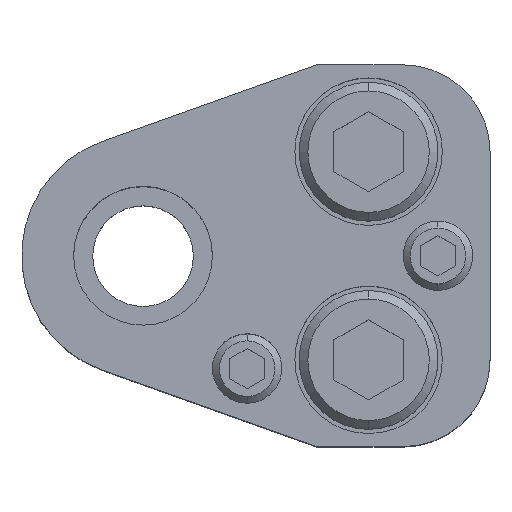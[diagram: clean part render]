
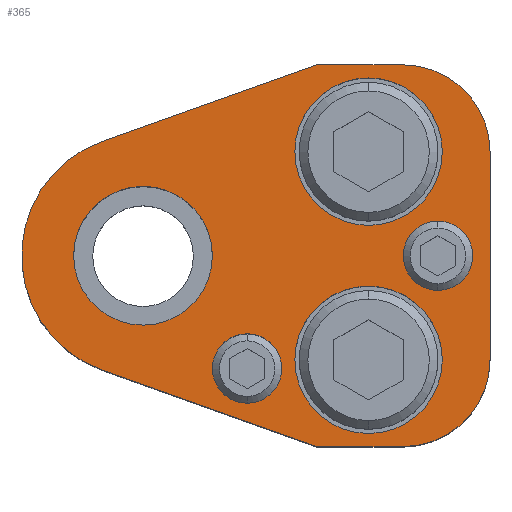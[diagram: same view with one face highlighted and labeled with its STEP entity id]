
A CAD part, top view. The second image highlights one B-rep face of the part: STEP entity #365.
In plain terms, the highlighted planar face has unit normal (0, 0, 1).
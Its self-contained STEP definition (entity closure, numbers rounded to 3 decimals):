
#134=PLANE('',#2757);
#204=FACE_BOUND('',#701,.T.);
#205=FACE_BOUND('',#702,.T.);
#206=FACE_BOUND('',#703,.T.);
#207=FACE_BOUND('',#704,.T.);
#208=FACE_BOUND('',#705,.T.);
#209=FACE_BOUND('',#706,.T.);
#365=ADVANCED_FACE('',(#204,#205,#206,#207,#208,#209),#134,.T.);
#701=EDGE_LOOP('',(#1265,#1266,#1267,#1268,#1269,#1270,#1271,#1272));
#702=EDGE_LOOP('',(#1273,#1274));
#703=EDGE_LOOP('',(#1275,#1276));
#704=EDGE_LOOP('',(#1277,#1278));
#705=EDGE_LOOP('',(#1279,#1280));
#706=EDGE_LOOP('',(#1281,#1282));
#859=CIRCLE('',#2700,14.);
#861=CIRCLE('',#2705,10.);
#863=CIRCLE('',#2709,10.);
#881=CIRCLE('',#2737,8.5);
#883=CIRCLE('',#2740,8.5);
#885=CIRCLE('',#2744,8.5);
#887=CIRCLE('',#2747,8.5);
#889=CIRCLE('',#2751,4.);
#890=CIRCLE('',#2752,4.);
#891=CIRCLE('',#2753,4.);
#892=CIRCLE('',#2754,4.);
#893=CIRCLE('',#2755,8.);
#894=CIRCLE('',#2756,8.);
#1265=ORIENTED_EDGE('',*,*,#1976,.T.);
#1266=ORIENTED_EDGE('',*,*,#1980,.T.);
#1267=ORIENTED_EDGE('',*,*,#1983,.T.);
#1268=ORIENTED_EDGE('',*,*,#1986,.T.);
#1269=ORIENTED_EDGE('',*,*,#1989,.T.);
#1270=ORIENTED_EDGE('',*,*,#1992,.T.);
#1271=ORIENTED_EDGE('',*,*,#1995,.T.);
#1272=ORIENTED_EDGE('',*,*,#1998,.T.);
#1273=ORIENTED_EDGE('',*,*,#2033,.F.);
#1274=ORIENTED_EDGE('',*,*,#2034,.F.);
#1275=ORIENTED_EDGE('',*,*,#2035,.F.);
#1276=ORIENTED_EDGE('',*,*,#2036,.F.);
#1277=ORIENTED_EDGE('',*,*,#2031,.F.);
#1278=ORIENTED_EDGE('',*,*,#2027,.F.);
#1279=ORIENTED_EDGE('',*,*,#2025,.F.);
#1280=ORIENTED_EDGE('',*,*,#2021,.F.);
#1281=ORIENTED_EDGE('',*,*,#2037,.T.);
#1282=ORIENTED_EDGE('',*,*,#2038,.T.);
#1716=VERTEX_POINT('',#3980);
#1717=VERTEX_POINT('',#3982);
#1720=VERTEX_POINT('',#3989);
#1722=VERTEX_POINT('',#3995);
#1724=VERTEX_POINT('',#4001);
#1726=VERTEX_POINT('',#4007);
#1728=VERTEX_POINT('',#4013);
#1730=VERTEX_POINT('',#4019);
#1747=VERTEX_POINT('',#4072);
#1748=VERTEX_POINT('',#4073);
#1751=VERTEX_POINT('',#4085);
#1752=VERTEX_POINT('',#4086);
#1755=VERTEX_POINT('',#4098);
#1756=VERTEX_POINT('',#4099);
#1757=VERTEX_POINT('',#4102);
#1758=VERTEX_POINT('',#4103);
#1759=VERTEX_POINT('',#4106);
#1760=VERTEX_POINT('',#4107);
#1976=EDGE_CURVE('',#1717,#1716,#859,.T.);
#1980=EDGE_CURVE('',#1716,#1720,#2266,.T.);
#1983=EDGE_CURVE('',#1720,#1722,#2269,.T.);
#1986=EDGE_CURVE('',#1722,#1724,#861,.T.);
#1989=EDGE_CURVE('',#1724,#1726,#2273,.T.);
#1992=EDGE_CURVE('',#1726,#1728,#863,.T.);
#1995=EDGE_CURVE('',#1728,#1730,#2277,.T.);
#1998=EDGE_CURVE('',#1730,#1717,#2280,.T.);
#2021=EDGE_CURVE('',#1747,#1748,#881,.T.);
#2025=EDGE_CURVE('',#1748,#1747,#883,.T.);
#2027=EDGE_CURVE('',#1751,#1752,#885,.T.);
#2031=EDGE_CURVE('',#1752,#1751,#887,.T.);
#2033=EDGE_CURVE('',#1755,#1756,#889,.T.);
#2034=EDGE_CURVE('',#1756,#1755,#890,.T.);
#2035=EDGE_CURVE('',#1757,#1758,#891,.T.);
#2036=EDGE_CURVE('',#1758,#1757,#892,.T.);
#2037=EDGE_CURVE('',#1759,#1760,#893,.T.);
#2038=EDGE_CURVE('',#1760,#1759,#894,.T.);
#2266=LINE('',#3990,#2458);
#2269=LINE('',#3996,#2461);
#2273=LINE('',#4008,#2465);
#2277=LINE('',#4020,#2469);
#2280=LINE('',#4024,#2472);
#2458=VECTOR('',#3164,1.);
#2461=VECTOR('',#3169,1.);
#2465=VECTOR('',#3181,1.);
#2469=VECTOR('',#3193,1.);
#2472=VECTOR('',#3198,1.);
#2700=AXIS2_PLACEMENT_3D('',#3981,#3156,#3157);
#2705=AXIS2_PLACEMENT_3D('',#4002,#3174,#3175);
#2709=AXIS2_PLACEMENT_3D('',#4014,#3186,#3187);
#2737=AXIS2_PLACEMENT_3D('',#4071,#3253,#3254);
#2740=AXIS2_PLACEMENT_3D('',#4080,#3261,#3262);
#2744=AXIS2_PLACEMENT_3D('',#4084,#3269,#3270);
#2747=AXIS2_PLACEMENT_3D('',#4093,#3277,#3278);
#2751=AXIS2_PLACEMENT_3D('',#4097,#3285,#3286);
#2752=AXIS2_PLACEMENT_3D('',#4100,#3287,#3288);
#2753=AXIS2_PLACEMENT_3D('',#4101,#3289,#3290);
#2754=AXIS2_PLACEMENT_3D('',#4104,#3291,#3292);
#2755=AXIS2_PLACEMENT_3D('',#4105,#3293,#3294);
#2756=AXIS2_PLACEMENT_3D('',#4108,#3295,#3296);
#2757=AXIS2_PLACEMENT_3D('',#4109,#3297,#3298);
#3156=DIRECTION('',(0.,0.,1.));
#3157=DIRECTION('',(-0.106,0.994,0.));
#3164=DIRECTION('',(0.942,-0.336,0.));
#3169=DIRECTION('',(1.,0.,0.));
#3174=DIRECTION('',(0.,0.,1.));
#3175=DIRECTION('',(-0.707,0.707,0.));
#3181=DIRECTION('',(0.,1.,0.));
#3186=DIRECTION('',(0.,0.,1.));
#3187=DIRECTION('',(-0.707,-0.707,0.));
#3193=DIRECTION('',(-1.,0.,0.));
#3198=DIRECTION('',(-0.942,-0.336,0.));
#3253=DIRECTION('',(0.,0.,1.));
#3254=DIRECTION('',(-1.,0.,0.));
#3261=DIRECTION('',(0.,0.,1.));
#3262=DIRECTION('',(1.,0.,0.));
#3269=DIRECTION('',(0.,0.,1.));
#3270=DIRECTION('',(-1.,0.,0.));
#3277=DIRECTION('',(0.,0.,1.));
#3278=DIRECTION('',(1.,0.,0.));
#3285=DIRECTION('',(0.,0.,1.));
#3286=DIRECTION('',(1.,0.,0.));
#3287=DIRECTION('',(0.,0.,1.));
#3288=DIRECTION('',(-1.,0.,0.));
#3289=DIRECTION('',(0.,0.,1.));
#3290=DIRECTION('',(1.,0.,0.));
#3291=DIRECTION('',(0.,0.,1.));
#3292=DIRECTION('',(-1.,0.,0.));
#3293=DIRECTION('',(0.,0.,-1.));
#3294=DIRECTION('',(-1.,0.,0.));
#3295=DIRECTION('',(0.,0.,-1.));
#3296=DIRECTION('',(1.,0.,0.));
#3297=DIRECTION('',(0.,0.,1.));
#3298=DIRECTION('',(0.942,0.336,0.));
#3980=CARTESIAN_POINT('',(-4.704,-13.186,35.));
#3981=CARTESIAN_POINT('',(0.,0.,35.));
#3982=CARTESIAN_POINT('',(-4.704,13.186,35.));
#3989=CARTESIAN_POINT('',(20.,-22.,35.));
#3990=CARTESIAN_POINT('',(20.,-22.,35.));
#3995=CARTESIAN_POINT('',(30.,-22.,35.));
#3996=CARTESIAN_POINT('',(30.,-22.,35.));
#4001=CARTESIAN_POINT('',(40.,-12.,35.));
#4002=CARTESIAN_POINT('',(30.,-12.,35.));
#4007=CARTESIAN_POINT('',(40.,12.,35.));
#4008=CARTESIAN_POINT('',(40.,12.,35.));
#4013=CARTESIAN_POINT('',(30.,22.,35.));
#4014=CARTESIAN_POINT('',(30.,12.,35.));
#4019=CARTESIAN_POINT('',(20.,22.,35.));
#4020=CARTESIAN_POINT('',(30.,22.,35.));
#4024=CARTESIAN_POINT('',(20.,22.,35.));
#4071=CARTESIAN_POINT('',(26.,12.,35.));
#4072=CARTESIAN_POINT('',(26.,3.5,35.));
#4073=CARTESIAN_POINT('',(26.,20.5,35.));
#4080=CARTESIAN_POINT('',(26.,12.,35.));
#4084=CARTESIAN_POINT('',(26.,-12.,35.));
#4085=CARTESIAN_POINT('',(26.,-20.5,35.));
#4086=CARTESIAN_POINT('',(26.,-3.5,35.));
#4093=CARTESIAN_POINT('',(26.,-12.,35.));
#4097=CARTESIAN_POINT('',(12.,-13.,35.));
#4098=CARTESIAN_POINT('',(12.,-9.,35.));
#4099=CARTESIAN_POINT('',(12.,-17.,35.));
#4100=CARTESIAN_POINT('',(12.,-13.,35.));
#4101=CARTESIAN_POINT('',(34.,0.,35.));
#4102=CARTESIAN_POINT('',(34.,4.,35.));
#4103=CARTESIAN_POINT('',(34.,-4.,35.));
#4104=CARTESIAN_POINT('',(34.,0.,35.));
#4105=CARTESIAN_POINT('',(0.,0.,35.));
#4106=CARTESIAN_POINT('',(0.,8.,35.));
#4107=CARTESIAN_POINT('',(0.,-8.,35.));
#4108=CARTESIAN_POINT('',(0.,0.,35.));
#4109=CARTESIAN_POINT('',(-4.704,13.186,35.));
